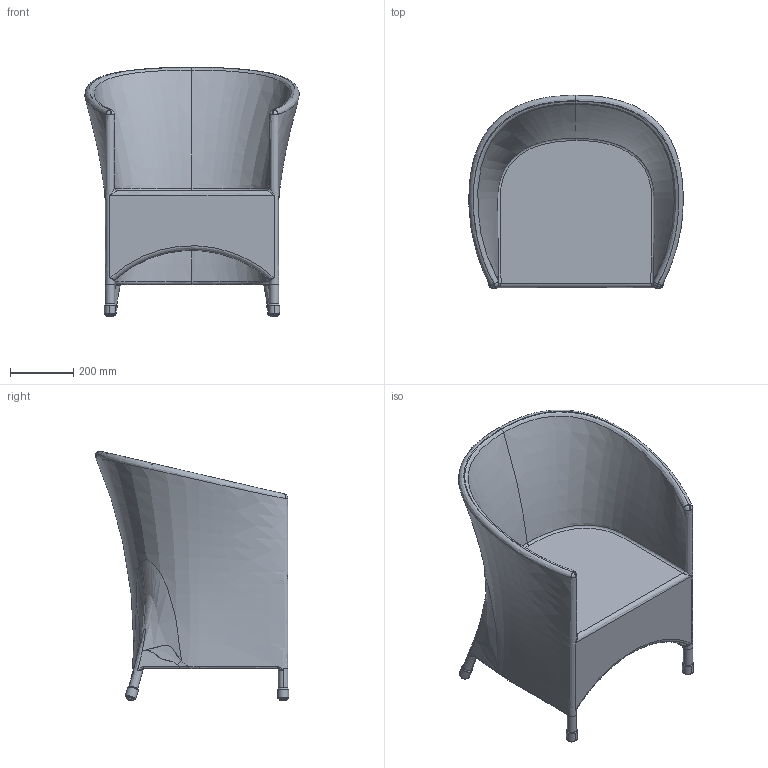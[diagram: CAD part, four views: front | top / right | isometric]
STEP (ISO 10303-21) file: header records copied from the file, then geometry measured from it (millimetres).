
FILE_DESCRIPTION(/* description */ (''),/* implementation_level */ '2;1');
FILE_NAME(/* name */ 'KINOSH~1',/* time_stamp */ '2019-07-19T09:42:40+09:00',/* author */ (''),/* organization */ (''),/* preprocessor_version */ 'ST-DEVELOPER v15',/* originating_system */ '',/* authorisation */ '');
FILE_SCHEMA (('AUTOMOTIVE_DESIGN'));
Length unit declared in the file: millimetre
Products named in the file (1): Document
Bounding box: 679.21 x 612.14 x 790.17 mm (x, y, z)
Volume: 139609.5 mm3; surface area: 2495942.8 mm2
Topology: 4 solids, 5 shells, 151 faces, 371 edges, 216 vertices
Faces by surface type: bspline 125, plane 26
Entity records: 40296 total; most frequent: CARTESIAN_POINT 38240, ORIENTED_EDGE 694, EDGE_CURVE 361, VERTEX_POINT 216, B_SPLINE_CURVE_WITH_KNOTS 193, EDGE_LOOP 155, ADVANCED_FACE 151, FACE_OUTER_BOUND 151
